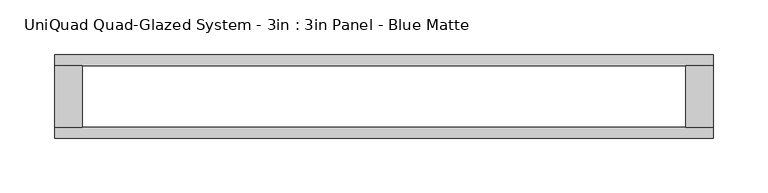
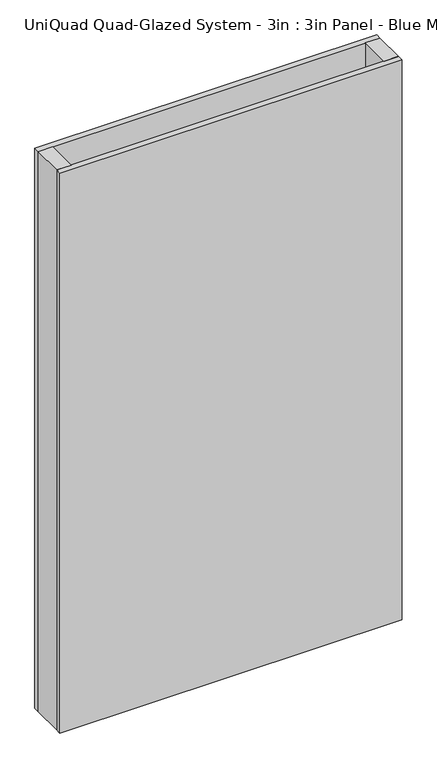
"""IFC4 building model written with IfcOpenShell, lengths in millimetres: plate geometry, UniQuad Quad-Glazed System - 3in : 3in Panel - Blue Matte."""

from ifc_helpers import new_model, si_unit, origin, origin_with_axes, place, context, project, spatial, polyline, outline, extrude, source, transform, mapped, element, save


def uniquad_quad_glazed_system_3in_3in_panel_blue_matte_5e3f416c(model_context):
    return source(origin(), model_context, "Body", "SweptSolid", [
        extrude(outline(polyline([(300.9800781, 28.0924), (300.9800781, -28.0924), (275.5800781, -28.0924), (275.5800781, 28.0924), (300.9800781, 28.0924)])), origin_with_axes(), (0.0, 0.0, 1.0), 1041.4),
        extrude(outline(polyline([(-300.9800781, 28.0924), (-275.5800781, 28.0924), (-275.5800781, -28.0924), (-300.9800781, -28.0924), (-300.9800781, 28.0924)])), origin_with_axes(), (0.0, 0.0, 1.0), 1041.4),
        extrude(outline(polyline([(300.9800781, -28.0924), (300.9800781, -38.1), (-300.9800781, -38.1), (-300.9800781, -28.0924), (300.9800781, -28.0924)])), origin_with_axes(), (0.0, 0.0, 1.0), 1041.4),
        extrude(outline(polyline([(300.9800781, 38.1), (300.9800781, 28.0924), (-300.9800781, 28.0924), (-300.9800781, 38.1), (300.9800781, 38.1)])), origin_with_axes(), (0.0, 0.0, 1.0), 1041.4),
    ])


if __name__ == "__main__":
    model = new_model("IFC4")
    model_context = context("Model", 3, world=origin())
    ifc_project = project(units=[si_unit("LENGTHUNIT", "METRE", prefix="MILLI")], contexts=[model_context])
    site = spatial("IfcSite", under=ifc_project)
    building = spatial("IfcBuilding", under=site)
    placement = place(None, origin())
    uniquad_quad_glazed_system_3in_3in_panel_blue_matte_shape = uniquad_quad_glazed_system_3in_3in_panel_blue_matte_5e3f416c(model_context)
    element("IfcPlate", 1, ObjectType="UniQuad Quad-Glazed System - 3in : 3in Panel - Blue Matte", at=placement, inside=building, context=model_context, shape_type="MappedRepresentation", body=[
        mapped(uniquad_quad_glazed_system_3in_3in_panel_blue_matte_shape, transform((0.0, 0.0, 0.0), x_axis=(1.0, 0.0, 0.0), y_axis=(0.0, 1.0, 0.0), z_axis=(0.0, 0.0, 1.0))),
    ])
    save(model, "model.ifc")
